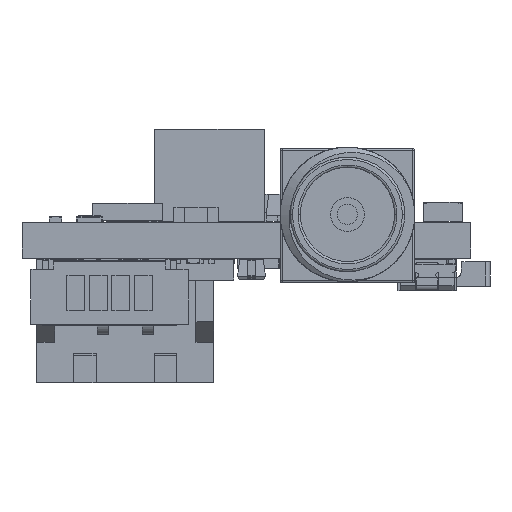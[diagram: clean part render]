
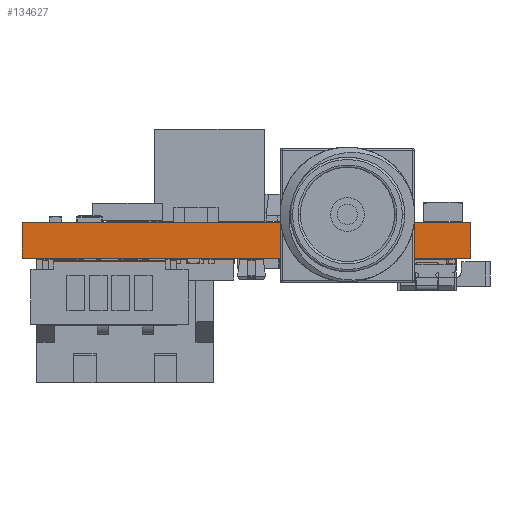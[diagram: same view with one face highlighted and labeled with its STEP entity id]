
A CAD part, left-side view. The second image highlights one B-rep face of the part: STEP entity #134627.
In plain terms, the highlighted planar face has unit normal (-1, 0, 0).
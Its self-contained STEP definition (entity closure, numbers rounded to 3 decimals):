
#134627 = ADVANCED_FACE('',(#134628),#134642,.T.);
#134628 = FACE_BOUND('',#134629,.T.);
#134629 = EDGE_LOOP('',(#134630,#134665,#134693,#134721));
#134630 = ORIENTED_EDGE('',*,*,#134631,.T.);
#134631 = EDGE_CURVE('',#134632,#134634,#134636,.T.);
#134632 = VERTEX_POINT('',#134633);
#134633 = CARTESIAN_POINT('',(0.,0.,0.));
#134634 = VERTEX_POINT('',#134635);
#134635 = CARTESIAN_POINT('',(0.,0.,1.6));
#134636 = SURFACE_CURVE('',#134637,(#134641,#134653),.PCURVE_S1.);
#134637 = LINE('',#134638,#134639);
#134638 = CARTESIAN_POINT('',(0.,0.,0.));
#134639 = VECTOR('',#134640,1.);
#134640 = DIRECTION('',(0.,0.,1.));
#134641 = PCURVE('',#134642,#134647);
#134642 = PLANE('',#134643);
#134643 = AXIS2_PLACEMENT_3D('',#134644,#134645,#134646);
#134644 = CARTESIAN_POINT('',(0.,0.,0.));
#134645 = DIRECTION('',(-1.,0.,0.));
#134646 = DIRECTION('',(0.,1.,0.));
#134647 = DEFINITIONAL_REPRESENTATION('',(#134648),#134652);
#134648 = LINE('',#134649,#134650);
#134649 = CARTESIAN_POINT('',(0.,0.));
#134650 = VECTOR('',#134651,1.);
#134651 = DIRECTION('',(0.,-1.));
#134652 = ( GEOMETRIC_REPRESENTATION_CONTEXT(2) 
PARAMETRIC_REPRESENTATION_CONTEXT() REPRESENTATION_CONTEXT('2D SPACE',''
  ) );
#134653 = PCURVE('',#134654,#134659);
#134654 = PLANE('',#134655);
#134655 = AXIS2_PLACEMENT_3D('',#134656,#134657,#134658);
#134656 = CARTESIAN_POINT('',(50.,0.,0.));
#134657 = DIRECTION('',(0.,-1.,0.));
#134658 = DIRECTION('',(-1.,0.,0.));
#134659 = DEFINITIONAL_REPRESENTATION('',(#134660),#134664);
#134660 = LINE('',#134661,#134662);
#134661 = CARTESIAN_POINT('',(50.,0.));
#134662 = VECTOR('',#134663,1.);
#134663 = DIRECTION('',(0.,-1.));
#134664 = ( GEOMETRIC_REPRESENTATION_CONTEXT(2) 
PARAMETRIC_REPRESENTATION_CONTEXT() REPRESENTATION_CONTEXT('2D SPACE',''
  ) );
#134665 = ORIENTED_EDGE('',*,*,#134666,.T.);
#134666 = EDGE_CURVE('',#134634,#134667,#134669,.T.);
#134667 = VERTEX_POINT('',#134668);
#134668 = CARTESIAN_POINT('',(0.,20.,1.6));
#134669 = SURFACE_CURVE('',#134670,(#134674,#134681),.PCURVE_S1.);
#134670 = LINE('',#134671,#134672);
#134671 = CARTESIAN_POINT('',(0.,0.,1.6));
#134672 = VECTOR('',#134673,1.);
#134673 = DIRECTION('',(0.,1.,0.));
#134674 = PCURVE('',#134642,#134675);
#134675 = DEFINITIONAL_REPRESENTATION('',(#134676),#134680);
#134676 = LINE('',#134677,#134678);
#134677 = CARTESIAN_POINT('',(0.,-1.6));
#134678 = VECTOR('',#134679,1.);
#134679 = DIRECTION('',(1.,0.));
#134680 = ( GEOMETRIC_REPRESENTATION_CONTEXT(2) 
PARAMETRIC_REPRESENTATION_CONTEXT() REPRESENTATION_CONTEXT('2D SPACE',''
  ) );
#134681 = PCURVE('',#134682,#134687);
#134682 = PLANE('',#134683);
#134683 = AXIS2_PLACEMENT_3D('',#134684,#134685,#134686);
#134684 = CARTESIAN_POINT('',(25.,10.,1.6));
#134685 = DIRECTION('',(0.,0.,-1.));
#134686 = DIRECTION('',(-1.,0.,0.));
#134687 = DEFINITIONAL_REPRESENTATION('',(#134688),#134692);
#134688 = LINE('',#134689,#134690);
#134689 = CARTESIAN_POINT('',(25.,-10.));
#134690 = VECTOR('',#134691,1.);
#134691 = DIRECTION('',(0.,1.));
#134692 = ( GEOMETRIC_REPRESENTATION_CONTEXT(2) 
PARAMETRIC_REPRESENTATION_CONTEXT() REPRESENTATION_CONTEXT('2D SPACE',''
  ) );
#134693 = ORIENTED_EDGE('',*,*,#134694,.F.);
#134694 = EDGE_CURVE('',#134695,#134667,#134697,.T.);
#134695 = VERTEX_POINT('',#134696);
#134696 = CARTESIAN_POINT('',(0.,20.,0.));
#134697 = SURFACE_CURVE('',#134698,(#134702,#134709),.PCURVE_S1.);
#134698 = LINE('',#134699,#134700);
#134699 = CARTESIAN_POINT('',(0.,20.,0.));
#134700 = VECTOR('',#134701,1.);
#134701 = DIRECTION('',(0.,0.,1.));
#134702 = PCURVE('',#134642,#134703);
#134703 = DEFINITIONAL_REPRESENTATION('',(#134704),#134708);
#134704 = LINE('',#134705,#134706);
#134705 = CARTESIAN_POINT('',(20.,0.));
#134706 = VECTOR('',#134707,1.);
#134707 = DIRECTION('',(0.,-1.));
#134708 = ( GEOMETRIC_REPRESENTATION_CONTEXT(2) 
PARAMETRIC_REPRESENTATION_CONTEXT() REPRESENTATION_CONTEXT('2D SPACE',''
  ) );
#134709 = PCURVE('',#134710,#134715);
#134710 = PLANE('',#134711);
#134711 = AXIS2_PLACEMENT_3D('',#134712,#134713,#134714);
#134712 = CARTESIAN_POINT('',(0.,20.,0.));
#134713 = DIRECTION('',(0.,1.,0.));
#134714 = DIRECTION('',(1.,0.,0.));
#134715 = DEFINITIONAL_REPRESENTATION('',(#134716),#134720);
#134716 = LINE('',#134717,#134718);
#134717 = CARTESIAN_POINT('',(0.,0.));
#134718 = VECTOR('',#134719,1.);
#134719 = DIRECTION('',(0.,-1.));
#134720 = ( GEOMETRIC_REPRESENTATION_CONTEXT(2) 
PARAMETRIC_REPRESENTATION_CONTEXT() REPRESENTATION_CONTEXT('2D SPACE',''
  ) );
#134721 = ORIENTED_EDGE('',*,*,#134722,.F.);
#134722 = EDGE_CURVE('',#134632,#134695,#134723,.T.);
#134723 = SURFACE_CURVE('',#134724,(#134728,#134735),.PCURVE_S1.);
#134724 = LINE('',#134725,#134726);
#134725 = CARTESIAN_POINT('',(0.,0.,0.));
#134726 = VECTOR('',#134727,1.);
#134727 = DIRECTION('',(0.,1.,0.));
#134728 = PCURVE('',#134642,#134729);
#134729 = DEFINITIONAL_REPRESENTATION('',(#134730),#134734);
#134730 = LINE('',#134731,#134732);
#134731 = CARTESIAN_POINT('',(0.,0.));
#134732 = VECTOR('',#134733,1.);
#134733 = DIRECTION('',(1.,0.));
#134734 = ( GEOMETRIC_REPRESENTATION_CONTEXT(2) 
PARAMETRIC_REPRESENTATION_CONTEXT() REPRESENTATION_CONTEXT('2D SPACE',''
  ) );
#134735 = PCURVE('',#134736,#134741);
#134736 = PLANE('',#134737);
#134737 = AXIS2_PLACEMENT_3D('',#134738,#134739,#134740);
#134738 = CARTESIAN_POINT('',(25.,10.,0.));
#134739 = DIRECTION('',(0.,0.,-1.));
#134740 = DIRECTION('',(-1.,0.,0.));
#134741 = DEFINITIONAL_REPRESENTATION('',(#134742),#134746);
#134742 = LINE('',#134743,#134744);
#134743 = CARTESIAN_POINT('',(25.,-10.));
#134744 = VECTOR('',#134745,1.);
#134745 = DIRECTION('',(0.,1.));
#134746 = ( GEOMETRIC_REPRESENTATION_CONTEXT(2) 
PARAMETRIC_REPRESENTATION_CONTEXT() REPRESENTATION_CONTEXT('2D SPACE',''
  ) );
